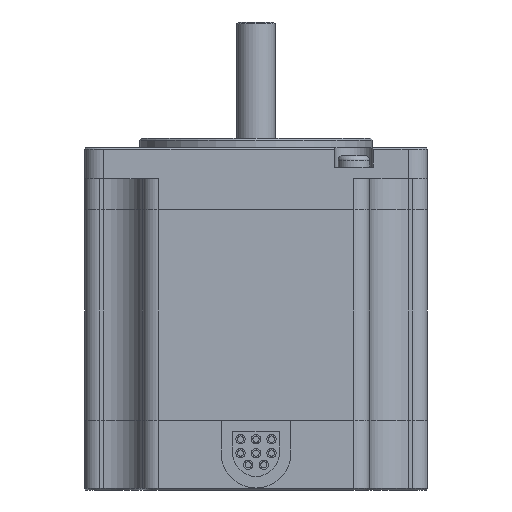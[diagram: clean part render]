
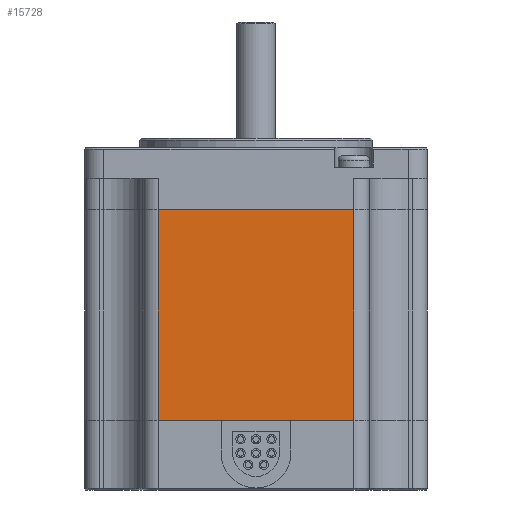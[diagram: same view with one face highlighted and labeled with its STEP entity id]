
A CAD part, front view. The second image highlights one B-rep face of the part: STEP entity #15728.
In plain terms, the highlighted planar face has unit normal (0, -1, 0).
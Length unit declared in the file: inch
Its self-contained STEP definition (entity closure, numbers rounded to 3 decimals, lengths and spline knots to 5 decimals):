
#1722 = VERTEX_POINT ( 'NONE', #13819 ) ;
#1723 = EDGE_CURVE ( 'NONE', #1722, #1744, #14066, .T. ) ;
#1744 = VERTEX_POINT ( 'NONE', #14172 ) ;
#9128 = DIRECTION ( 'NONE',  ( 0., 0., 1. ) ) ;
#9141 = VECTOR ( 'NONE', #9128, 39.37008 ) ;
#9144 = CARTESIAN_POINT ( 'NONE',  ( 0.63, -1.104, -1.754 ) ) ;
#9145 = LINE ( 'NONE', #9144, #9141 ) ;
#9199 = CARTESIAN_POINT ( 'NONE',  ( 0.63, -1.104, -1.754 ) ) ;
#9366 = FACE_OUTER_BOUND ( 'NONE', #14817, .T. ) ;
#9420 = CARTESIAN_POINT ( 'NONE',  ( 0.63, -1.104, -1.754 ) ) ;
#9421 = LINE ( 'NONE', #9420, #9519 ) ;
#9434 = CARTESIAN_POINT ( 'NONE',  ( -0.63, -1.104, -1.754 ) ) ;
#9444 = PLANE ( 'NONE',  #9491 ) ;
#9486 = DIRECTION ( 'NONE',  ( -1., 0., 0. ) ) ;
#9488 = DIRECTION ( 'NONE',  ( 0., 1., 0. ) ) ;
#9490 = CARTESIAN_POINT ( 'NONE',  ( 0.63, -1.104, -1.754 ) ) ;
#9491 = AXIS2_PLACEMENT_3D ( 'NONE', #9490, #9488, #9486 ) ;
#9510 = DIRECTION ( 'NONE',  ( 0., 0., 1. ) ) ;
#9512 = VECTOR ( 'NONE', #9510, 39.37008 ) ;
#9513 = CARTESIAN_POINT ( 'NONE',  ( -0.63, -1.104, -1.754 ) ) ;
#9517 = DIRECTION ( 'NONE',  ( -1., 0., 0. ) ) ;
#9519 = VECTOR ( 'NONE', #9517, 39.37008 ) ;
#9548 = LINE ( 'NONE', #9513, #9512 ) ;
#13819 = CARTESIAN_POINT ( 'NONE',  ( 0.63, -1.104, -0.4 ) ) ;
#14062 = DIRECTION ( 'NONE',  ( -1., 0., 0. ) ) ;
#14064 = VECTOR ( 'NONE', #14062, 39.37008 ) ;
#14065 = CARTESIAN_POINT ( 'NONE',  ( 0.63, -1.104, -0.4 ) ) ;
#14066 = LINE ( 'NONE', #14065, #14064 ) ;
#14172 = CARTESIAN_POINT ( 'NONE',  ( -0.63, -1.104, -0.4 ) ) ;
#14817 = EDGE_LOOP ( 'NONE', ( #15718, #15717, #15565, #15755 ) ) ;
#15318 = EDGE_CURVE ( 'NONE', #15477, #1722, #9145, .T. ) ;
#15477 = VERTEX_POINT ( 'NONE', #9199 ) ;
#15565 = ORIENTED_EDGE ( 'NONE', *, *, #15750, .F. ) ;
#15662 = VERTEX_POINT ( 'NONE', #9434 ) ;
#15717 = ORIENTED_EDGE ( 'NONE', *, *, #15751, .F. ) ;
#15718 = ORIENTED_EDGE ( 'NONE', *, *, #1723, .T. ) ;
#15728 = ADVANCED_FACE ( 'NONE', ( #9366 ), #9444, .F. ) ;
#15750 = EDGE_CURVE ( 'NONE', #15477, #15662, #9421, .T. ) ;
#15751 = EDGE_CURVE ( 'NONE', #15662, #1744, #9548, .T. ) ;
#15755 = ORIENTED_EDGE ( 'NONE', *, *, #15318, .T. ) ;
